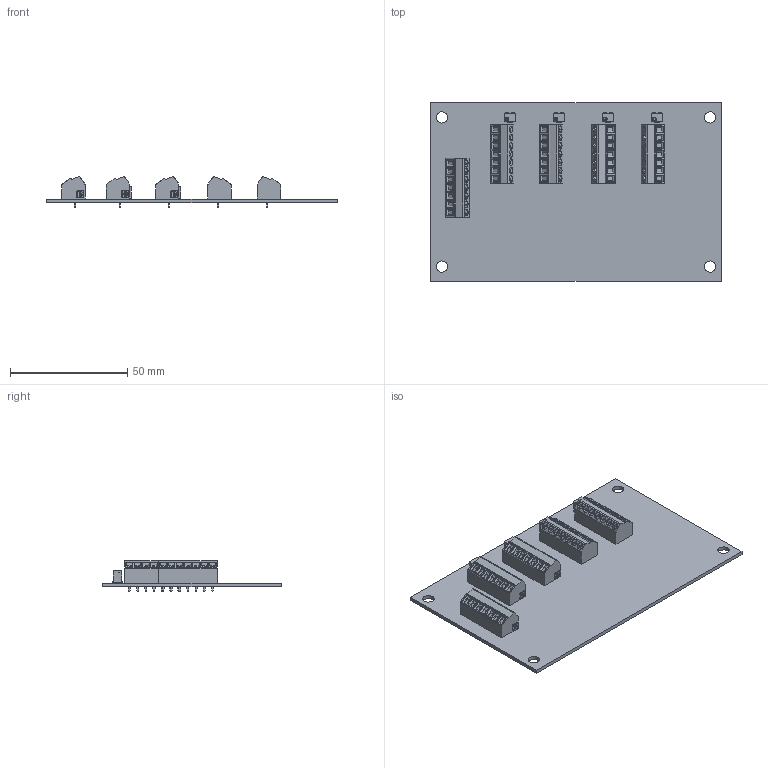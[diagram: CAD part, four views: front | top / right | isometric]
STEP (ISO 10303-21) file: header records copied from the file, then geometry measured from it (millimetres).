
FILE_DESCRIPTION (( 'STEP AP203' ), '1' );
FILE_NAME ('HI6010IT-SC2.STEP', '2021-06-08T00:19:48', ( '' ), ( '' ), 'SwSTEP 2.0', 'SolidWorks 2020', '' );
FILE_SCHEMA (( 'CONFIG_CONTROL_DESIGN' ));
Length unit declared in the file: inch
Products named in the file (5): 0534-0562-01-0; 4617-0010-0; 0535-0562-XX-0; HI6010IT-SC2; 2101-0167-0
Assembly tree (11 placements, depth 3):
  HI6010IT-SC2
    0535-0562-XX-0
      0534-0562-01-0
      2101-0167-0  x5
      4617-0010-0  x4
Bounding box: 123.83 x 76.2 x 13 mm (x, y, z)
Volume: 25020.5 mm3; surface area: 27829.9 mm2
Topology: 57 solids, 61 shells, 2314 faces, 5709 edges, 3700 vertices
Faces by surface type: plane 1512, cylinder 746, bspline 48, cone 8
Entity records: 24034 total; most frequent: CARTESIAN_POINT 4423, DIRECTION 4033, ORIENTED_EDGE 3730, EDGE_CURVE 1865, AXIS2_PLACEMENT_3D 1446, VERTEX_POINT 1218, VECTOR 1141, LINE 1141
